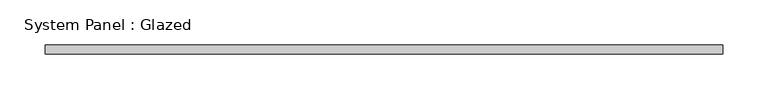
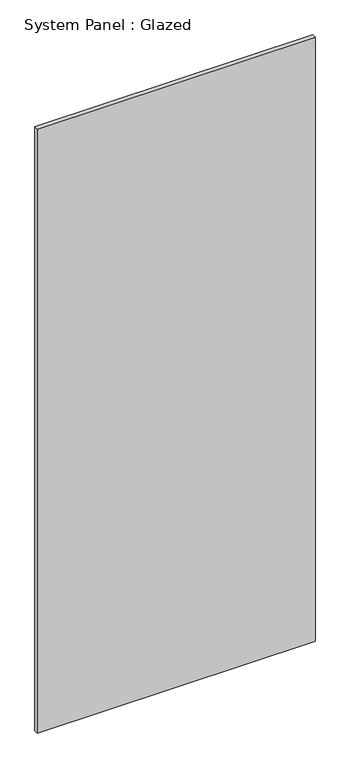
"""IFC4 building model written with IfcOpenShell, lengths in millimetres: plate geometry, System Panel : Glazed."""

from ifc_helpers import new_model, si_unit, origin, origin_with_axes, place, context, project, spatial, polyline, outline, extrude, source, transform, mapped, element, save


def system_panel_glazed_9c400084(model_context):
    return source(origin(), model_context, "Body", "SweptSolid", [
        extrude(outline(polyline([(373.0821699, -5.0), (-373.0821699, -5.0), (-373.0821699, 5.0), (373.0821699, 5.0), (373.0821699, -5.0)])), origin_with_axes(), (0.0, 0.0, 1.0), 1714.0731694),
    ])


if __name__ == "__main__":
    model = new_model("IFC4")
    model_context = context("Model", 3, world=origin())
    ifc_project = project(units=[si_unit("LENGTHUNIT", "METRE", prefix="MILLI")], contexts=[model_context])
    site = spatial("IfcSite", under=ifc_project)
    building = spatial("IfcBuilding", under=site)
    placement = place(None, origin())
    system_panel_glazed_shape = system_panel_glazed_9c400084(model_context)
    element("IfcPlate", 1, ObjectType="System Panel : Glazed", at=placement, inside=building, context=model_context, shape_type="MappedRepresentation", body=[
        mapped(system_panel_glazed_shape, transform((0.0, 0.0, 0.0), x_axis=(1.0, 0.0, 0.0), y_axis=(0.0, 1.0, 0.0), z_axis=(0.0, 0.0, 1.0))),
    ])
    save(model, "model.ifc")
